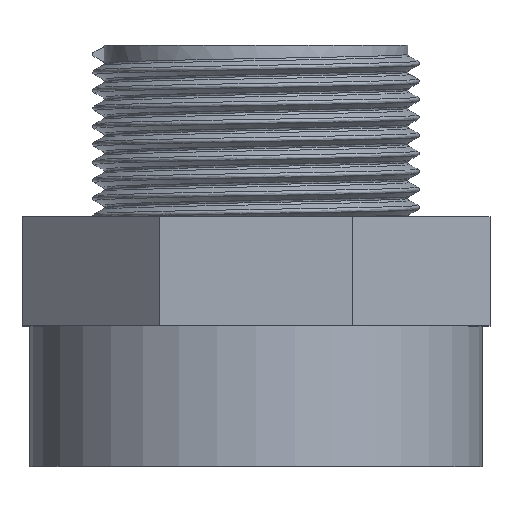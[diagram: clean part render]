
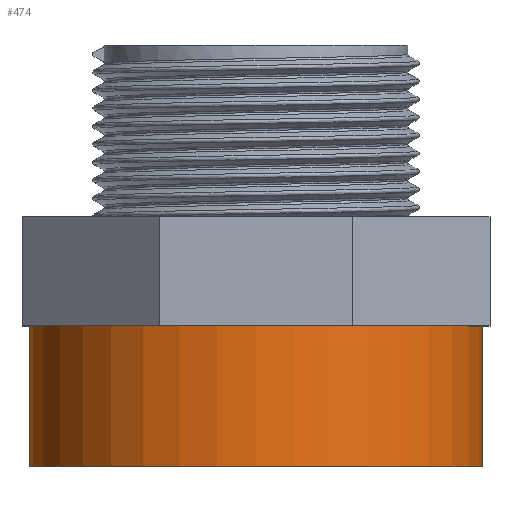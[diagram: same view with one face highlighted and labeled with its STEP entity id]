
A CAD part, top view. The second image highlights one B-rep face of the part: STEP entity #474.
In plain terms, the highlighted cylindrical face has radius 29 mm (diameter 58 mm), a full revolution.
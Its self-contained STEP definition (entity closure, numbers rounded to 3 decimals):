
#21=FACE_BOUND('',#165,.T.);
#26=CYLINDRICAL_SURFACE('',#507,29.);
#129=FACE_OUTER_BOUND('',#164,.T.);
#164=EDGE_LOOP('',(#422));
#165=EDGE_LOOP('',(#423));
#175=CIRCLE('',#489,29.);
#179=CIRCLE('',#506,29.);
#232=VERTEX_POINT('',#7962);
#244=VERTEX_POINT('',#8007);
#288=EDGE_CURVE('',#232,#232,#175,.T.);
#308=EDGE_CURVE('',#244,#244,#179,.T.);
#422=ORIENTED_EDGE('',*,*,#288,.T.);
#423=ORIENTED_EDGE('',*,*,#308,.T.);
#474=ADVANCED_FACE('',(#129,#21),#26,.T.);
#489=AXIS2_PLACEMENT_3D('',#7963,#547,#548);
#506=AXIS2_PLACEMENT_3D('',#8008,#597,#598);
#507=AXIS2_PLACEMENT_3D('',#8009,#599,#600);
#547=DIRECTION('center_axis',(0.,-1.,0.));
#548=DIRECTION('ref_axis',(-1.,0.,0.));
#597=DIRECTION('center_axis',(0.,1.,0.));
#598=DIRECTION('ref_axis',(1.,0.,0.));
#599=DIRECTION('center_axis',(0.,1.,0.));
#600=DIRECTION('ref_axis',(-1.,0.,0.));
#7962=CARTESIAN_POINT('',(29.,18.,0.));
#7963=CARTESIAN_POINT('Origin',(0.,18.,0.));
#8007=CARTESIAN_POINT('',(-29.,0.,0.));
#8008=CARTESIAN_POINT('Origin',(0.,0.,0.));
#8009=CARTESIAN_POINT('Origin',(0.,16.,0.));
